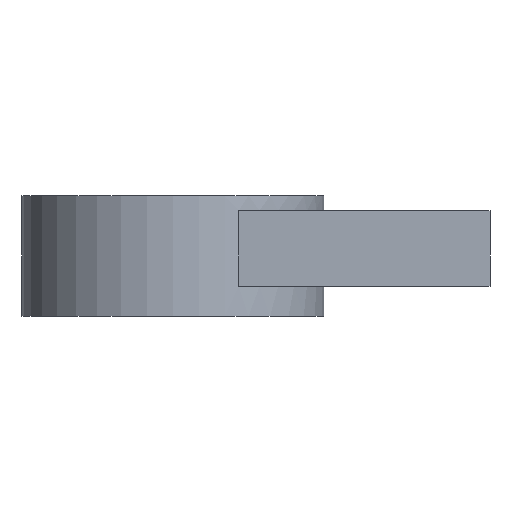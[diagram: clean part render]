
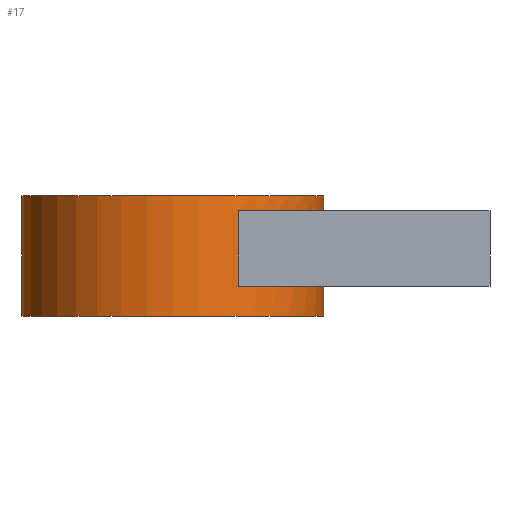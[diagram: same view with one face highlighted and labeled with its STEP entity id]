
A CAD part, front view. The second image highlights one B-rep face of the part: STEP entity #17.
In plain terms, the highlighted cylindrical face has radius 10 mm (diameter 20 mm), a full revolution.
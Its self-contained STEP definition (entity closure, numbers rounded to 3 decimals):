
#17 = ADVANCED_FACE('',(#18),#32,.T.);
#18 = FACE_BOUND('',#19,.T.);
#19 = EDGE_LOOP('',(#20,#50,#77,#78,#107,#133,#162,#185,#212,#213,#237,
    #264));
#20 = ORIENTED_EDGE('',*,*,#21,.T.);
#21 = EDGE_CURVE('',#22,#24,#26,.T.);
#22 = VERTEX_POINT('',#23);
#23 = CARTESIAN_POINT('',(40.,0.,41.5));
#24 = VERTEX_POINT('',#25);
#25 = CARTESIAN_POINT('',(40.,0.,42.5));
#26 = SEAM_CURVE('',#27,(#31,#43),.PCURVE_S1.);
#27 = LINE('',#28,#29);
#28 = CARTESIAN_POINT('',(40.,0.,34.5));
#29 = VECTOR('',#30,1.);
#30 = DIRECTION('',(0.,0.,1.));
#31 = PCURVE('',#32,#37);
#32 = CYLINDRICAL_SURFACE('',#33,10.);
#33 = AXIS2_PLACEMENT_3D('',#34,#35,#36);
#34 = CARTESIAN_POINT('',(30.,0.,34.5));
#35 = DIRECTION('',(0.,0.,1.));
#36 = DIRECTION('',(1.,0.,-0.));
#37 = DEFINITIONAL_REPRESENTATION('',(#38),#42);
#38 = LINE('',#39,#40);
#39 = CARTESIAN_POINT('',(6.283,-0.));
#40 = VECTOR('',#41,1.);
#41 = DIRECTION('',(0.,1.));
#42 = ( GEOMETRIC_REPRESENTATION_CONTEXT(2) 
PARAMETRIC_REPRESENTATION_CONTEXT() REPRESENTATION_CONTEXT('2D SPACE',''
  ) );
#43 = PCURVE('',#32,#44);
#44 = DEFINITIONAL_REPRESENTATION('',(#45),#49);
#45 = LINE('',#46,#47);
#46 = CARTESIAN_POINT('',(0.,-0.));
#47 = VECTOR('',#48,1.);
#48 = DIRECTION('',(0.,1.));
#49 = ( GEOMETRIC_REPRESENTATION_CONTEXT(2) 
PARAMETRIC_REPRESENTATION_CONTEXT() REPRESENTATION_CONTEXT('2D SPACE',''
  ) );
#50 = ORIENTED_EDGE('',*,*,#51,.F.);
#51 = EDGE_CURVE('',#24,#24,#52,.T.);
#52 = SURFACE_CURVE('',#53,(#58,#65),.PCURVE_S1.);
#53 = CIRCLE('',#54,10.);
#54 = AXIS2_PLACEMENT_3D('',#55,#56,#57);
#55 = CARTESIAN_POINT('',(30.,0.,42.5));
#56 = DIRECTION('',(0.,0.,1.));
#57 = DIRECTION('',(1.,0.,-0.));
#58 = PCURVE('',#32,#59);
#59 = DEFINITIONAL_REPRESENTATION('',(#60),#64);
#60 = LINE('',#61,#62);
#61 = CARTESIAN_POINT('',(0.,8.));
#62 = VECTOR('',#63,1.);
#63 = DIRECTION('',(1.,0.));
#64 = ( GEOMETRIC_REPRESENTATION_CONTEXT(2) 
PARAMETRIC_REPRESENTATION_CONTEXT() REPRESENTATION_CONTEXT('2D SPACE',''
  ) );
#65 = PCURVE('',#66,#71);
#66 = PLANE('',#67);
#67 = AXIS2_PLACEMENT_3D('',#68,#69,#70);
#68 = CARTESIAN_POINT('',(30.,0.,42.5));
#69 = DIRECTION('',(0.,0.,1.));
#70 = DIRECTION('',(1.,0.,-0.));
#71 = DEFINITIONAL_REPRESENTATION('',(#72),#76);
#72 = CIRCLE('',#73,10.);
#73 = AXIS2_PLACEMENT_2D('',#74,#75);
#74 = CARTESIAN_POINT('',(0.,0.));
#75 = DIRECTION('',(1.,0.));
#76 = ( GEOMETRIC_REPRESENTATION_CONTEXT(2) 
PARAMETRIC_REPRESENTATION_CONTEXT() REPRESENTATION_CONTEXT('2D SPACE',''
  ) );
#77 = ORIENTED_EDGE('',*,*,#21,.F.);
#78 = ORIENTED_EDGE('',*,*,#79,.T.);
#79 = EDGE_CURVE('',#22,#80,#82,.T.);
#80 = VERTEX_POINT('',#81);
#81 = CARTESIAN_POINT('',(34.359,9.,41.5));
#82 = SURFACE_CURVE('',#83,(#88,#95),.PCURVE_S1.);
#83 = CIRCLE('',#84,10.);
#84 = AXIS2_PLACEMENT_3D('',#85,#86,#87);
#85 = CARTESIAN_POINT('',(30.,0.,41.5));
#86 = DIRECTION('',(0.,0.,1.));
#87 = DIRECTION('',(1.,0.,-0.));
#88 = PCURVE('',#32,#89);
#89 = DEFINITIONAL_REPRESENTATION('',(#90),#94);
#90 = LINE('',#91,#92);
#91 = CARTESIAN_POINT('',(0.,7.));
#92 = VECTOR('',#93,1.);
#93 = DIRECTION('',(1.,0.));
#94 = ( GEOMETRIC_REPRESENTATION_CONTEXT(2) 
PARAMETRIC_REPRESENTATION_CONTEXT() REPRESENTATION_CONTEXT('2D SPACE',''
  ) );
#95 = PCURVE('',#96,#101);
#96 = PLANE('',#97);
#97 = AXIS2_PLACEMENT_3D('',#98,#99,#100);
#98 = CARTESIAN_POINT('',(30.,-9.,41.5));
#99 = DIRECTION('',(0.,0.,1.));
#100 = DIRECTION('',(1.,0.,0.));
#101 = DEFINITIONAL_REPRESENTATION('',(#102),#106);
#102 = CIRCLE('',#103,10.);
#103 = AXIS2_PLACEMENT_2D('',#104,#105);
#104 = CARTESIAN_POINT('',(0.,9.));
#105 = DIRECTION('',(1.,0.));
#106 = ( GEOMETRIC_REPRESENTATION_CONTEXT(2) 
PARAMETRIC_REPRESENTATION_CONTEXT() REPRESENTATION_CONTEXT('2D SPACE',''
  ) );
#107 = ORIENTED_EDGE('',*,*,#108,.F.);
#108 = EDGE_CURVE('',#109,#80,#111,.T.);
#109 = VERTEX_POINT('',#110);
#110 = CARTESIAN_POINT('',(34.359,9.,36.5));
#111 = SURFACE_CURVE('',#112,(#116,#122),.PCURVE_S1.);
#112 = LINE('',#113,#114);
#113 = CARTESIAN_POINT('',(34.359,9.,34.5));
#114 = VECTOR('',#115,1.);
#115 = DIRECTION('',(0.,0.,1.));
#116 = PCURVE('',#32,#117);
#117 = DEFINITIONAL_REPRESENTATION('',(#118),#121);
#118 = B_SPLINE_CURVE_WITH_KNOTS('',1,(#119,#120),.UNSPECIFIED.,.F.,.F.,
  (2,2),(1.5,7.5),.PIECEWISE_BEZIER_KNOTS.);
#119 = CARTESIAN_POINT('',(1.12,1.5));
#120 = CARTESIAN_POINT('',(1.12,7.5));
#121 = ( GEOMETRIC_REPRESENTATION_CONTEXT(2) 
PARAMETRIC_REPRESENTATION_CONTEXT() REPRESENTATION_CONTEXT('2D SPACE',''
  ) );
#122 = PCURVE('',#123,#128);
#123 = PLANE('',#124);
#124 = AXIS2_PLACEMENT_3D('',#125,#126,#127);
#125 = CARTESIAN_POINT('',(30.,9.,36.5));
#126 = DIRECTION('',(0.,1.,0.));
#127 = DIRECTION('',(0.,0.,1.));
#128 = DEFINITIONAL_REPRESENTATION('',(#129),#132);
#129 = B_SPLINE_CURVE_WITH_KNOTS('',1,(#130,#131),.UNSPECIFIED.,.F.,.F.,
  (2,2),(1.5,7.5),.PIECEWISE_BEZIER_KNOTS.);
#130 = CARTESIAN_POINT('',(-0.5,4.359));
#131 = CARTESIAN_POINT('',(5.5,4.359));
#132 = ( GEOMETRIC_REPRESENTATION_CONTEXT(2) 
PARAMETRIC_REPRESENTATION_CONTEXT() REPRESENTATION_CONTEXT('2D SPACE',''
  ) );
#133 = ORIENTED_EDGE('',*,*,#134,.F.);
#134 = EDGE_CURVE('',#135,#109,#137,.T.);
#135 = VERTEX_POINT('',#136);
#136 = CARTESIAN_POINT('',(40.,0.,36.5));
#137 = SURFACE_CURVE('',#138,(#143,#150),.PCURVE_S1.);
#138 = CIRCLE('',#139,10.);
#139 = AXIS2_PLACEMENT_3D('',#140,#141,#142);
#140 = CARTESIAN_POINT('',(30.,0.,36.5));
#141 = DIRECTION('',(0.,0.,1.));
#142 = DIRECTION('',(1.,0.,-0.));
#143 = PCURVE('',#32,#144);
#144 = DEFINITIONAL_REPRESENTATION('',(#145),#149);
#145 = LINE('',#146,#147);
#146 = CARTESIAN_POINT('',(0.,2.));
#147 = VECTOR('',#148,1.);
#148 = DIRECTION('',(1.,0.));
#149 = ( GEOMETRIC_REPRESENTATION_CONTEXT(2) 
PARAMETRIC_REPRESENTATION_CONTEXT() REPRESENTATION_CONTEXT('2D SPACE',''
  ) );
#150 = PCURVE('',#151,#156);
#151 = PLANE('',#152);
#152 = AXIS2_PLACEMENT_3D('',#153,#154,#155);
#153 = CARTESIAN_POINT('',(30.,-9.,36.5));
#154 = DIRECTION('',(0.,0.,1.));
#155 = DIRECTION('',(1.,0.,0.));
#156 = DEFINITIONAL_REPRESENTATION('',(#157),#161);
#157 = CIRCLE('',#158,10.);
#158 = AXIS2_PLACEMENT_2D('',#159,#160);
#159 = CARTESIAN_POINT('',(0.,9.));
#160 = DIRECTION('',(1.,0.));
#161 = ( GEOMETRIC_REPRESENTATION_CONTEXT(2) 
PARAMETRIC_REPRESENTATION_CONTEXT() REPRESENTATION_CONTEXT('2D SPACE',''
  ) );
#162 = ORIENTED_EDGE('',*,*,#163,.F.);
#163 = EDGE_CURVE('',#164,#135,#166,.T.);
#164 = VERTEX_POINT('',#165);
#165 = CARTESIAN_POINT('',(40.,0.,34.5));
#166 = SEAM_CURVE('',#167,(#171,#178),.PCURVE_S1.);
#167 = LINE('',#168,#169);
#168 = CARTESIAN_POINT('',(40.,0.,34.5));
#169 = VECTOR('',#170,1.);
#170 = DIRECTION('',(0.,0.,1.));
#171 = PCURVE('',#32,#172);
#172 = DEFINITIONAL_REPRESENTATION('',(#173),#177);
#173 = LINE('',#174,#175);
#174 = CARTESIAN_POINT('',(6.283,-0.));
#175 = VECTOR('',#176,1.);
#176 = DIRECTION('',(0.,1.));
#177 = ( GEOMETRIC_REPRESENTATION_CONTEXT(2) 
PARAMETRIC_REPRESENTATION_CONTEXT() REPRESENTATION_CONTEXT('2D SPACE',''
  ) );
#178 = PCURVE('',#32,#179);
#179 = DEFINITIONAL_REPRESENTATION('',(#180),#184);
#180 = LINE('',#181,#182);
#181 = CARTESIAN_POINT('',(0.,-0.));
#182 = VECTOR('',#183,1.);
#183 = DIRECTION('',(0.,1.));
#184 = ( GEOMETRIC_REPRESENTATION_CONTEXT(2) 
PARAMETRIC_REPRESENTATION_CONTEXT() REPRESENTATION_CONTEXT('2D SPACE',''
  ) );
#185 = ORIENTED_EDGE('',*,*,#186,.T.);
#186 = EDGE_CURVE('',#164,#164,#187,.T.);
#187 = SURFACE_CURVE('',#188,(#193,#200),.PCURVE_S1.);
#188 = CIRCLE('',#189,10.);
#189 = AXIS2_PLACEMENT_3D('',#190,#191,#192);
#190 = CARTESIAN_POINT('',(30.,0.,34.5));
#191 = DIRECTION('',(0.,0.,1.));
#192 = DIRECTION('',(1.,0.,-0.));
#193 = PCURVE('',#32,#194);
#194 = DEFINITIONAL_REPRESENTATION('',(#195),#199);
#195 = LINE('',#196,#197);
#196 = CARTESIAN_POINT('',(0.,0.));
#197 = VECTOR('',#198,1.);
#198 = DIRECTION('',(1.,0.));
#199 = ( GEOMETRIC_REPRESENTATION_CONTEXT(2) 
PARAMETRIC_REPRESENTATION_CONTEXT() REPRESENTATION_CONTEXT('2D SPACE',''
  ) );
#200 = PCURVE('',#201,#206);
#201 = PLANE('',#202);
#202 = AXIS2_PLACEMENT_3D('',#203,#204,#205);
#203 = CARTESIAN_POINT('',(30.,0.,34.5));
#204 = DIRECTION('',(0.,0.,1.));
#205 = DIRECTION('',(1.,0.,-0.));
#206 = DEFINITIONAL_REPRESENTATION('',(#207),#211);
#207 = CIRCLE('',#208,10.);
#208 = AXIS2_PLACEMENT_2D('',#209,#210);
#209 = CARTESIAN_POINT('',(0.,0.));
#210 = DIRECTION('',(1.,0.));
#211 = ( GEOMETRIC_REPRESENTATION_CONTEXT(2) 
PARAMETRIC_REPRESENTATION_CONTEXT() REPRESENTATION_CONTEXT('2D SPACE',''
  ) );
#212 = ORIENTED_EDGE('',*,*,#163,.T.);
#213 = ORIENTED_EDGE('',*,*,#214,.F.);
#214 = EDGE_CURVE('',#215,#135,#217,.T.);
#215 = VERTEX_POINT('',#216);
#216 = CARTESIAN_POINT('',(34.359,-9.,36.5));
#217 = SURFACE_CURVE('',#218,(#223,#230),.PCURVE_S1.);
#218 = CIRCLE('',#219,10.);
#219 = AXIS2_PLACEMENT_3D('',#220,#221,#222);
#220 = CARTESIAN_POINT('',(30.,0.,36.5));
#221 = DIRECTION('',(0.,0.,1.));
#222 = DIRECTION('',(1.,0.,-0.));
#223 = PCURVE('',#32,#224);
#224 = DEFINITIONAL_REPRESENTATION('',(#225),#229);
#225 = LINE('',#226,#227);
#226 = CARTESIAN_POINT('',(0.,2.));
#227 = VECTOR('',#228,1.);
#228 = DIRECTION('',(1.,0.));
#229 = ( GEOMETRIC_REPRESENTATION_CONTEXT(2) 
PARAMETRIC_REPRESENTATION_CONTEXT() REPRESENTATION_CONTEXT('2D SPACE',''
  ) );
#230 = PCURVE('',#151,#231);
#231 = DEFINITIONAL_REPRESENTATION('',(#232),#236);
#232 = CIRCLE('',#233,10.);
#233 = AXIS2_PLACEMENT_2D('',#234,#235);
#234 = CARTESIAN_POINT('',(0.,9.));
#235 = DIRECTION('',(1.,0.));
#236 = ( GEOMETRIC_REPRESENTATION_CONTEXT(2) 
PARAMETRIC_REPRESENTATION_CONTEXT() REPRESENTATION_CONTEXT('2D SPACE',''
  ) );
#237 = ORIENTED_EDGE('',*,*,#238,.T.);
#238 = EDGE_CURVE('',#215,#239,#241,.T.);
#239 = VERTEX_POINT('',#240);
#240 = CARTESIAN_POINT('',(34.359,-9.,41.5));
#241 = SURFACE_CURVE('',#242,(#246,#252),.PCURVE_S1.);
#242 = LINE('',#243,#244);
#243 = CARTESIAN_POINT('',(34.359,-9.,34.5));
#244 = VECTOR('',#245,1.);
#245 = DIRECTION('',(0.,0.,1.));
#246 = PCURVE('',#32,#247);
#247 = DEFINITIONAL_REPRESENTATION('',(#248),#251);
#248 = B_SPLINE_CURVE_WITH_KNOTS('',1,(#249,#250),.UNSPECIFIED.,.F.,.F.,
  (2,2),(1.5,7.5),.PIECEWISE_BEZIER_KNOTS.);
#249 = CARTESIAN_POINT('',(5.163,1.5));
#250 = CARTESIAN_POINT('',(5.163,7.5));
#251 = ( GEOMETRIC_REPRESENTATION_CONTEXT(2) 
PARAMETRIC_REPRESENTATION_CONTEXT() REPRESENTATION_CONTEXT('2D SPACE',''
  ) );
#252 = PCURVE('',#253,#258);
#253 = PLANE('',#254);
#254 = AXIS2_PLACEMENT_3D('',#255,#256,#257);
#255 = CARTESIAN_POINT('',(30.,-9.,36.5));
#256 = DIRECTION('',(0.,1.,0.));
#257 = DIRECTION('',(0.,0.,1.));
#258 = DEFINITIONAL_REPRESENTATION('',(#259),#263);
#259 = LINE('',#260,#261);
#260 = CARTESIAN_POINT('',(-2.,4.359));
#261 = VECTOR('',#262,1.);
#262 = DIRECTION('',(1.,0.));
#263 = ( GEOMETRIC_REPRESENTATION_CONTEXT(2) 
PARAMETRIC_REPRESENTATION_CONTEXT() REPRESENTATION_CONTEXT('2D SPACE',''
  ) );
#264 = ORIENTED_EDGE('',*,*,#265,.T.);
#265 = EDGE_CURVE('',#239,#22,#266,.T.);
#266 = SURFACE_CURVE('',#267,(#272,#279),.PCURVE_S1.);
#267 = CIRCLE('',#268,10.);
#268 = AXIS2_PLACEMENT_3D('',#269,#270,#271);
#269 = CARTESIAN_POINT('',(30.,0.,41.5));
#270 = DIRECTION('',(0.,0.,1.));
#271 = DIRECTION('',(1.,0.,-0.));
#272 = PCURVE('',#32,#273);
#273 = DEFINITIONAL_REPRESENTATION('',(#274),#278);
#274 = LINE('',#275,#276);
#275 = CARTESIAN_POINT('',(0.,7.));
#276 = VECTOR('',#277,1.);
#277 = DIRECTION('',(1.,0.));
#278 = ( GEOMETRIC_REPRESENTATION_CONTEXT(2) 
PARAMETRIC_REPRESENTATION_CONTEXT() REPRESENTATION_CONTEXT('2D SPACE',''
  ) );
#279 = PCURVE('',#96,#280);
#280 = DEFINITIONAL_REPRESENTATION('',(#281),#285);
#281 = CIRCLE('',#282,10.);
#282 = AXIS2_PLACEMENT_2D('',#283,#284);
#283 = CARTESIAN_POINT('',(0.,9.));
#284 = DIRECTION('',(1.,0.));
#285 = ( GEOMETRIC_REPRESENTATION_CONTEXT(2) 
PARAMETRIC_REPRESENTATION_CONTEXT() REPRESENTATION_CONTEXT('2D SPACE',''
  ) );
